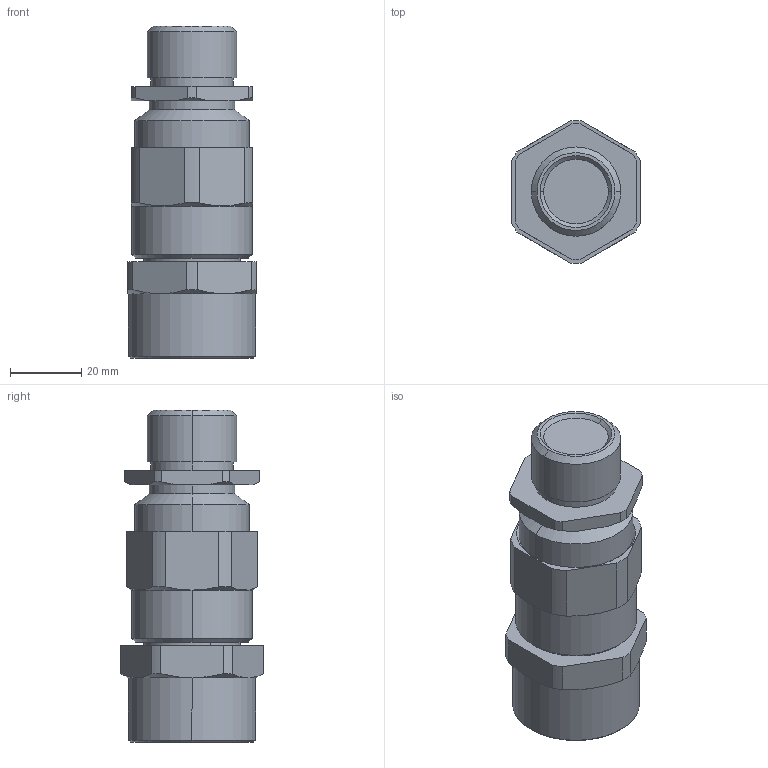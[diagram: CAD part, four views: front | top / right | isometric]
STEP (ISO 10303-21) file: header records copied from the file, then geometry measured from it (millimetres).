
FILE_DESCRIPTION (( 'STEP AP203' ), '1' );
FILE_NAME ('ﾊﾎﾂﾒﾂﾋ2M3Gﾍ.STEP', '2021-05-28T11:53:13', ( '' ), ( '' ), 'SwSTEP 2.0', 'SolidWorks 2018', '' );
FILE_SCHEMA (( 'CONFIG_CONTROL_DESIGN' ));
Length unit declared in the file: millimetre
Products named in the file (1): ﾊﾎﾂﾒﾂﾋ2M3Gﾍ
Bounding box: 36 x 39.99 x 93 mm (x, y, z)
Volume: 77530.7 mm3; surface area: 14049.5 mm2
Topology: 1 solids, 1 shells, 97 faces, 232 edges, 148 vertices
Faces by surface type: cylinder 36, plane 31, cone 30
Entity records: 3007 total; most frequent: CARTESIAN_POINT 642, DIRECTION 500, ORIENTED_EDGE 464, EDGE_CURVE 232, AXIS2_PLACEMENT_3D 202, VERTEX_POINT 148, EDGE_LOOP 108, CIRCLE 104
